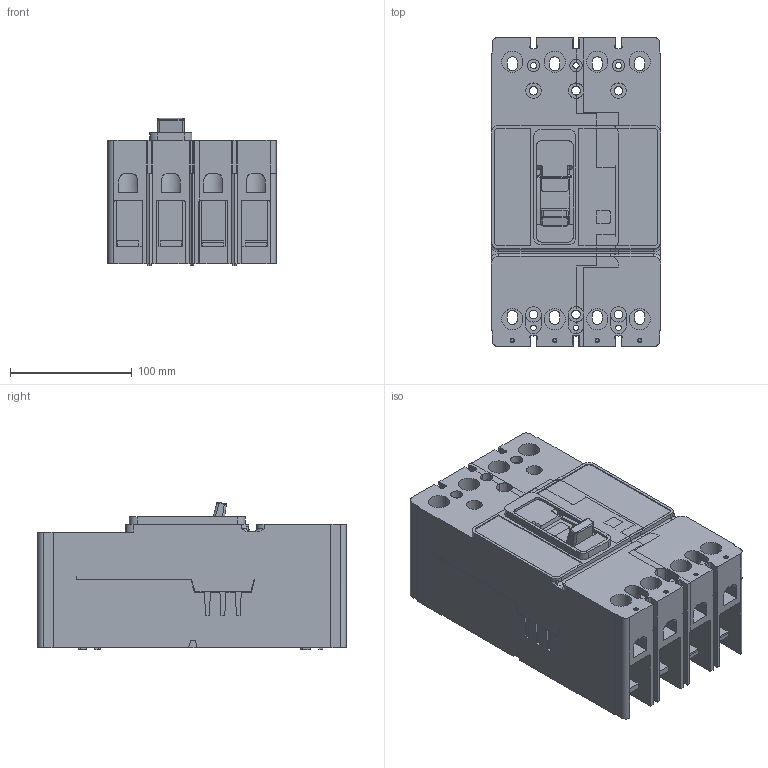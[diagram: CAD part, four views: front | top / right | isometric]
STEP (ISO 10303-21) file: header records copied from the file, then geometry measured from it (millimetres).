
FILE_DESCRIPTION((''),'2;1');
FILE_NAME('C:\temp\JDC4_.stp','2015-10-23T10:39:01',('E0021360'),(''),'Autodesk Inventor 2013','Autodesk Inventor 2013','');
FILE_SCHEMA(('AUTOMOTIVE_DESIGN { 1 0 10303 214 1 1 1 1 }'));
Length unit declared in the file: inch
Products named in the file (1): JDC4_
Bounding box: 139.73 x 254 x 121.44 mm (x, y, z)
Volume: 3171427.3 mm3; surface area: 361550.7 mm2
Topology: 4 solids, 11 shells, 1413 faces, 3937 edges, 2603 vertices
Faces by surface type: plane 1091, cylinder 303, cone 9, torus 6, bspline 4
Full cylindrical faces by diameter (mm): 2.794 x4, 3.556 x4, 4.572 x3, 5.08 x3, 5.156 x4, 5.309 x6, 5.563 x6, 6.35 x10, 6.756 x4, 7.137 x6, 7.925 x9, 8.077 x3, 10.033 x3, 10.16 x3, 12.7 x6, 17.475 x12, 21.59 x4
Entity records: 46003 total; most frequent: CARTESIAN_POINT 8302, ORIENTED_EDGE 7576, DIRECTION 7301, EDGE_CURVE 3788, VECTOR 2967, LINE 2967, VERTEX_POINT 2552, AXIS2_PLACEMENT_3D 2167
